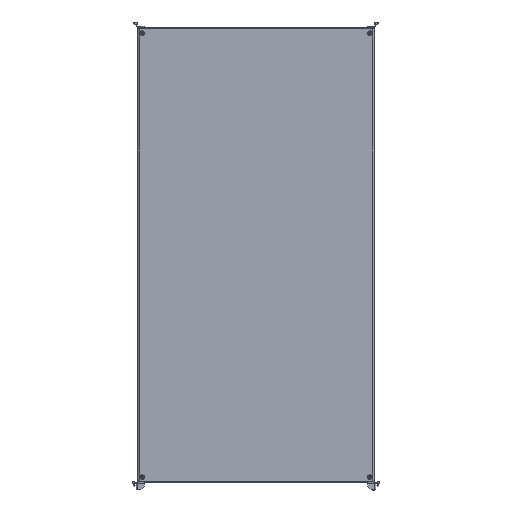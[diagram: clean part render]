
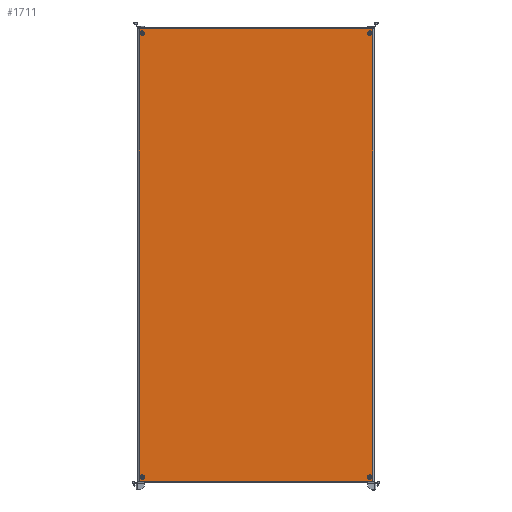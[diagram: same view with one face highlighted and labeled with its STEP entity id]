
A CAD part, top view. The second image highlights one B-rep face of the part: STEP entity #1711.
In plain terms, the highlighted planar face has unit normal (0, 0, 1).
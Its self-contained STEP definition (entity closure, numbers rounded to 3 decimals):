
#1711=ADVANCED_FACE('',(#9125,#9127,#9129,#9131,#9133),#9135,.T.);
#9125=FACE_BOUND('',#9126,.T.);
#9126=EDGE_LOOP('',(#16152,#16153,#16154,#16155));
#9127=FACE_BOUND('',#9128,.T.);
#9128=EDGE_LOOP('',(#16156));
#9129=FACE_BOUND('',#9130,.T.);
#9130=EDGE_LOOP('',(#16157));
#9131=FACE_BOUND('',#9132,.T.);
#9132=EDGE_LOOP('',(#16158));
#9133=FACE_BOUND('',#9134,.T.);
#9134=EDGE_LOOP('',(#16159));
#9135=PLANE('',#9136);
#9136=AXIS2_PLACEMENT_3D('',#9137,#9138,#9139);
#9137=CARTESIAN_POINT('',(0.,0.,3.));
#9138=DIRECTION('',(0.,0.,1.));
#9139=DIRECTION('',(1.,0.,0.));
#16152=ORIENTED_EDGE('',*,*,#19809,.T.);
#16153=ORIENTED_EDGE('',*,*,#19656,.T.);
#16154=ORIENTED_EDGE('',*,*,#19810,.T.);
#16155=ORIENTED_EDGE('',*,*,#19811,.T.);
#16156=ORIENTED_EDGE('',*,*,#19812,.T.);
#16157=ORIENTED_EDGE('',*,*,#19813,.T.);
#16158=ORIENTED_EDGE('',*,*,#19814,.T.);
#16159=ORIENTED_EDGE('',*,*,#19815,.T.);
#19656=EDGE_CURVE('',#21898,#21900,#21902,.T.);
#19809=EDGE_CURVE('',#22139,#21898,#22140,.T.);
#19810=EDGE_CURVE('',#21900,#22141,#22142,.T.);
#19811=EDGE_CURVE('',#22141,#22139,#22143,.T.);
#19812=EDGE_CURVE('',#22144,#22144,#22145,.F.);
#19813=EDGE_CURVE('',#22146,#22146,#22147,.F.);
#19814=EDGE_CURVE('',#22148,#22148,#22149,.F.);
#19815=EDGE_CURVE('',#22150,#22150,#22151,.F.);
#21898=VERTEX_POINT('',#27336);
#21900=VERTEX_POINT('',#27341);
#21902=LINE('',#27346,#27347);
#22139=VERTEX_POINT('',#27933);
#22140=LINE('',#27934,#27935);
#22141=VERTEX_POINT('',#27937);
#22142=LINE('',#27938,#27939);
#22143=LINE('',#27941,#27942);
#22144=VERTEX_POINT('',#27944);
#22145=CIRCLE('',#27945,10.);
#22146=VERTEX_POINT('',#27949);
#22147=CIRCLE('',#27950,10.);
#22148=VERTEX_POINT('',#27954);
#22149=CIRCLE('',#27955,10.);
#22150=VERTEX_POINT('',#27959);
#22151=CIRCLE('',#27960,10.);
#27336=CARTESIAN_POINT('',(5.6,2084.4,3.));
#27341=CARTESIAN_POINT('',(5.6,5.6,3.));
#27346=CARTESIAN_POINT('',(5.6,2084.4,3.));
#27347=VECTOR('',#27348,1.);
#27348=DIRECTION('',(0.,-1.,0.));
#27933=CARTESIAN_POINT('',(1079.4,2084.4,3.));
#27934=CARTESIAN_POINT('',(1079.4,2084.4,3.));
#27935=VECTOR('',#27936,1.);
#27936=DIRECTION('',(-1.,0.,0.));
#27937=CARTESIAN_POINT('',(1079.4,5.6,3.));
#27938=CARTESIAN_POINT('',(5.6,5.6,3.));
#27939=VECTOR('',#27940,1.);
#27940=DIRECTION('',(1.,0.,0.));
#27941=CARTESIAN_POINT('',(1079.4,5.6,3.));
#27942=VECTOR('',#27943,1.);
#27943=DIRECTION('',(0.,1.,0.));
#27944=CARTESIAN_POINT('',(30.,25.,3.));
#27945=AXIS2_PLACEMENT_3D('',#27946,#27947,#27948);
#27946=CARTESIAN_POINT('',(20.,25.,3.));
#27947=DIRECTION('',(0.,0.,1.));
#27948=DIRECTION('',(1.,0.,0.));
#27949=CARTESIAN_POINT('',(1075.,2065.,3.));
#27950=AXIS2_PLACEMENT_3D('',#27951,#27952,#27953);
#27951=CARTESIAN_POINT('',(1065.,2065.,3.));
#27952=DIRECTION('',(0.,0.,1.));
#27953=DIRECTION('',(1.,0.,0.));
#27954=CARTESIAN_POINT('',(30.,2065.,3.));
#27955=AXIS2_PLACEMENT_3D('',#27956,#27957,#27958);
#27956=CARTESIAN_POINT('',(20.,2065.,3.));
#27957=DIRECTION('',(0.,0.,1.));
#27958=DIRECTION('',(1.,0.,0.));
#27959=CARTESIAN_POINT('',(1075.,25.,3.));
#27960=AXIS2_PLACEMENT_3D('',#27961,#27962,#27963);
#27961=CARTESIAN_POINT('',(1065.,25.,3.));
#27962=DIRECTION('',(0.,0.,1.));
#27963=DIRECTION('',(1.,0.,0.));
